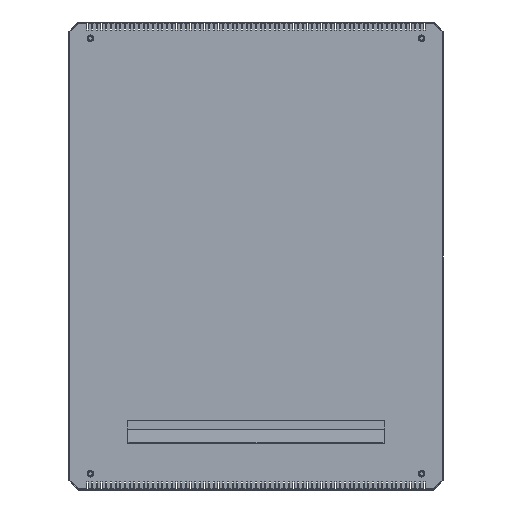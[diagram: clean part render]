
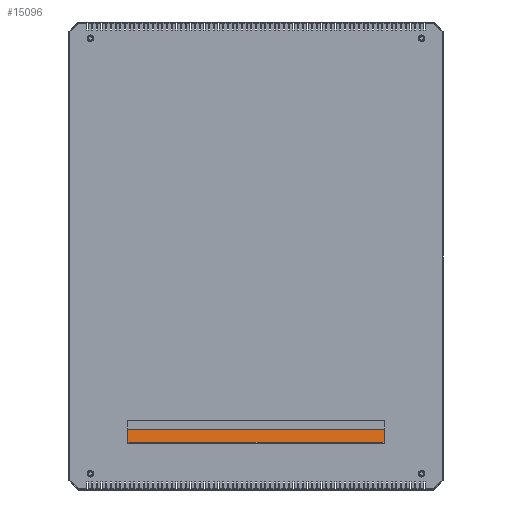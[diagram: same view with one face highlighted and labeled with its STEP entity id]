
A CAD part, front view. The second image highlights one B-rep face of the part: STEP entity #15096.
In plain terms, the highlighted planar face has unit normal (0, -0.996, 0.09).
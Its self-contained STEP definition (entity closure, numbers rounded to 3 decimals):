
#4537 = VERTEX_POINT ( 'NONE', #24767 ) ;
#4538 = VERTEX_POINT ( 'NONE', #24768 ) ;
#4539 = VERTEX_POINT ( 'NONE', #24769 ) ;
#4540 = VERTEX_POINT ( 'NONE', #24770 ) ;
#6085 = EDGE_LOOP ( 'NONE', ( #9231, #9233, #9232, #9234 ) ) ;
#9231 = ORIENTED_EDGE ( 'NONE', *, *, #19726, .T. ) ;
#9232 = ORIENTED_EDGE ( 'NONE', *, *, #19733, .F. ) ;
#9233 = ORIENTED_EDGE ( 'NONE', *, *, #19731, .F. ) ;
#9234 = ORIENTED_EDGE ( 'NONE', *, *, #19735, .F. ) ;
#15096 = ADVANCED_FACE ( 'NONE', ( #40690 ), #41813, .F. ) ;
#19726 = EDGE_CURVE ( 'NONE', #4538, #4537, #50823, .T. ) ;
#19731 = EDGE_CURVE ( 'NONE', #4539, #4537, #50819, .T. ) ;
#19733 = EDGE_CURVE ( 'NONE', #4540, #4539, #50832, .T. ) ;
#19735 = EDGE_CURVE ( 'NONE', #4538, #4540, #50835, .T. ) ;
#24767 = CARTESIAN_POINT ( 'NONE',  ( -275., -3.6, -369.85 ) ) ;
#24768 = CARTESIAN_POINT ( 'NONE',  ( 275., -3.6, -369.85 ) ) ;
#24769 = CARTESIAN_POINT ( 'NONE',  ( -275., -6.3, -399.85 ) ) ;
#24770 = CARTESIAN_POINT ( 'NONE',  ( 275., -6.3, -399.85 ) ) ;
#40689 = AXIS2_PLACEMENT_3D ( 'NONE', #41814, #41815, #41816 ) ;
#40690 = FACE_OUTER_BOUND ( 'NONE', #6085, .T. ) ;
#41813 = PLANE ( 'NONE',  #40689 ) ;
#41814 = CARTESIAN_POINT ( 'NONE',  ( 275., -3.6, -369.85 ) ) ;
#41815 = DIRECTION ( 'NONE',  ( 0., 0.996, -0.09 ) ) ;
#41816 = DIRECTION ( 'NONE',  ( 0., 0.09, 0.996 ) ) ;
#50819 = LINE ( 'NONE', #50829, #51799 ) ;
#50823 = LINE ( 'NONE', #50824, #51797 ) ;
#50824 = CARTESIAN_POINT ( 'NONE',  ( 275., -3.6, -369.85 ) ) ;
#50825 = DIRECTION ( 'NONE',  ( -1., 0., 0. ) ) ;
#50829 = CARTESIAN_POINT ( 'NONE',  ( -275., -6.3, -399.85 ) ) ;
#50830 = DIRECTION ( 'NONE',  ( 0., 0.09, 0.996 ) ) ;
#50832 = LINE ( 'NONE', #50833, #51800 ) ;
#50833 = CARTESIAN_POINT ( 'NONE',  ( 275., -6.3, -399.85 ) ) ;
#50834 = DIRECTION ( 'NONE',  ( -1., 0., 0. ) ) ;
#50835 = LINE ( 'NONE', #50836, #51801 ) ;
#50836 = CARTESIAN_POINT ( 'NONE',  ( 275., -3.6, -369.85 ) ) ;
#50837 = DIRECTION ( 'NONE',  ( 0., -0.09, -0.996 ) ) ;
#51797 = VECTOR ( 'NONE', #50825, 1000. ) ;
#51799 = VECTOR ( 'NONE', #50830, 1000. ) ;
#51800 = VECTOR ( 'NONE', #50834, 1000. ) ;
#51801 = VECTOR ( 'NONE', #50837, 1000. ) ;
